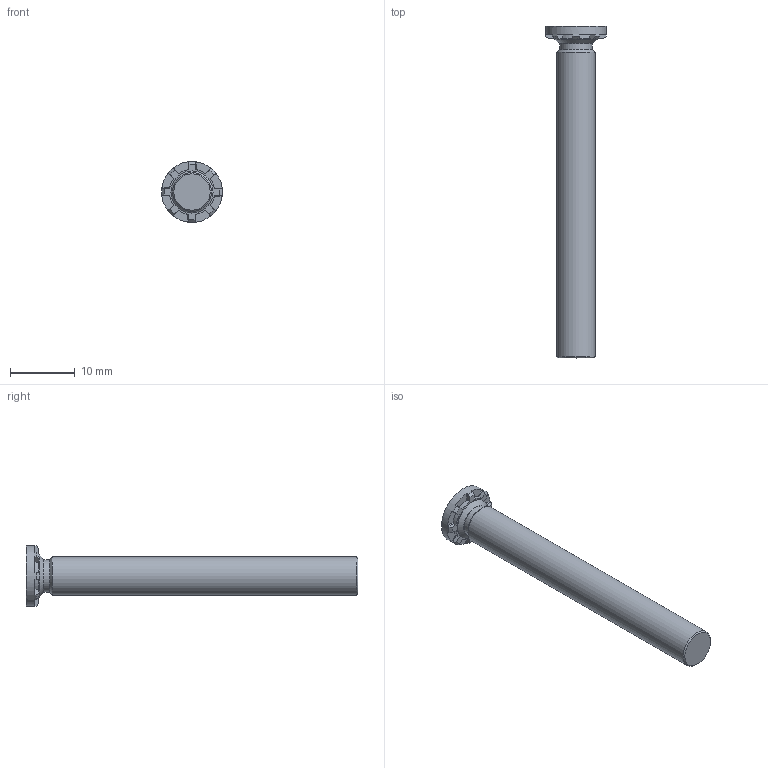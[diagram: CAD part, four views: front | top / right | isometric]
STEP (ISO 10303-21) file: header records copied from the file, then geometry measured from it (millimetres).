
FILE_DESCRIPTION(/* description */ (''),/* implementation_level */ '2;1');
FILE_NAME(/* name */ 'C:\Users\keval.kumar\Desktop\Fastit\Clinch Screw- HFH Range\M6\Clinch Screw-HFH Range_M6x50.stp',/* time_stamp */ '2024-03-12T15:31:20+05:00',/* author */ ('keval.kumar'),/* organization */ (''),/* preprocessor_version */ 'ST-DEVELOPER v18.1',/* originating_system */ 'Autodesk Inventor 2022',/* authorisation */ '');
FILE_SCHEMA (('AUTOMOTIVE_DESIGN { 1 0 10303 214 3 1 1 }'));
Length unit declared in the file: millimetre
Products named in the file (1): Clinch Screw-HFH Range_M6x50
Bounding box: 9.4 x 51.27 x 9.4 mm (x, y, z)
Volume: 1503.9 mm3; surface area: 1129.2 mm2
Topology: 1 solids, 1 shells, 68 faces, 193 edges, 128 vertices
Faces by surface type: plane 43, cylinder 12, cone 11, torus 2
Full cylindrical faces by diameter (mm): 5 x1, 6 x1, 6.5 x1, 9.4 x1
Entity records: 2278 total; most frequent: CARTESIAN_POINT 422, DIRECTION 405, ORIENTED_EDGE 386, EDGE_CURVE 193, AXIS2_PLACEMENT_3D 159, VERTEX_POINT 128, LINE 87, VECTOR 87
